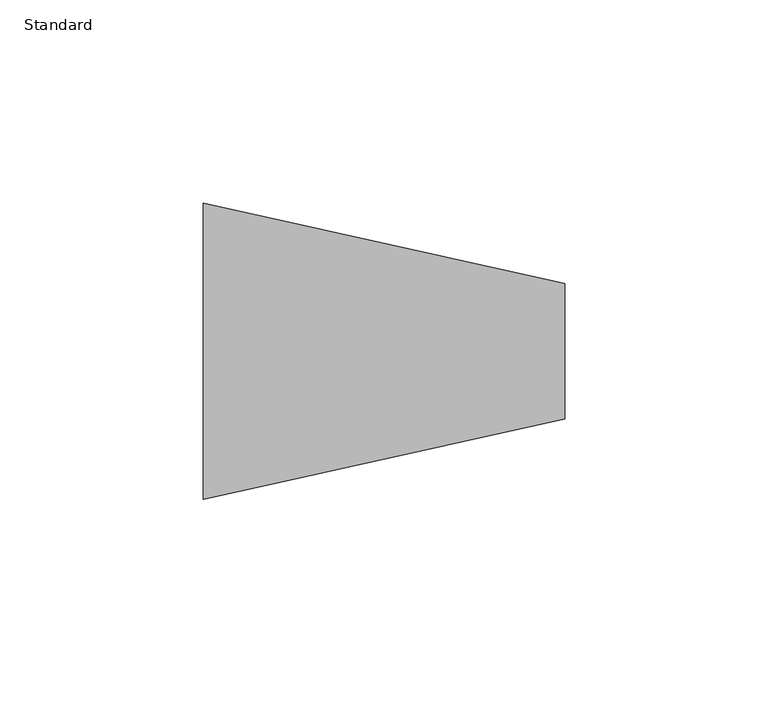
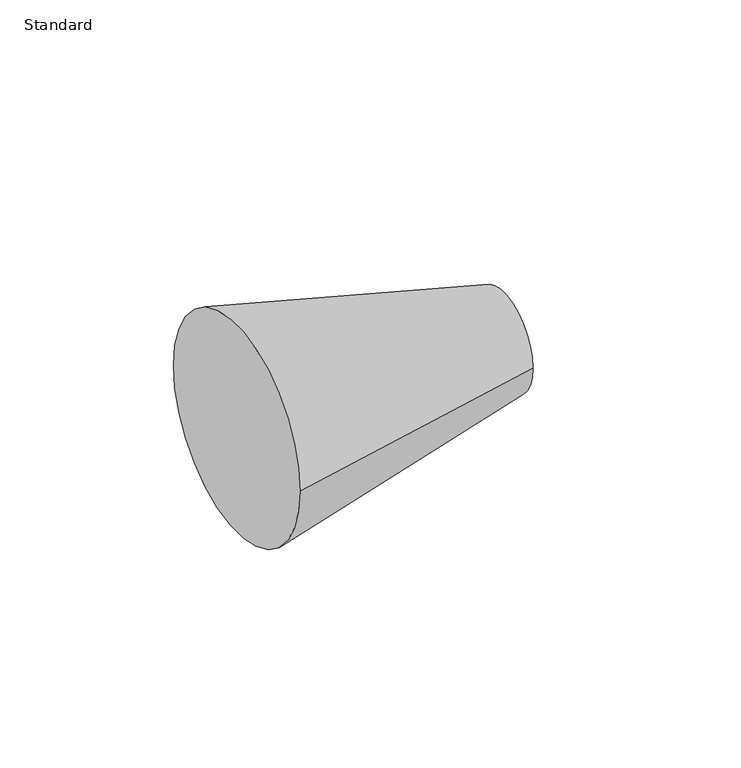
"""IFC4 building model written with IfcOpenShell, lengths in millimetres: pipe fitting geometry, Transformation - Générique : Standard."""

import ifcopenshell
import ifcopenshell.guid

model = None  # the IFC model being written
_history = None  # IfcOwnerHistory: only IFC2X3 demands one
_inside = {}  # id of a spatial element -> (the spatial element, [elements in it])
_under = {}  # id of a project, library or spatial element -> (it, [spatial elements below it])
_declared = {}  # id of a project -> (the project, [libraries it declares])
_typed = {}  # id of a type object -> (the type object, [elements of that type])
_made_of = {}  # id of a material, layer set ... -> (it, [elements and type objects made of it])


def new_model(schema):
    """Start an empty IFC model of exactly this schema.

    Asked for "IFC4X3", IfcOpenShell would pick the latest addendum, in which some entities
    have other attributes; the version numbers below select the first issue.
    IFC2X3 requires an IfcOwnerHistory on every rooted entity: one is made here for all.
    """
    global model, _history
    if schema == "IFC4X3":
        model = ifcopenshell.file(schema_version=(4, 3, 0, 0))
    else:
        model = ifcopenshell.file(schema=schema)
    _inside.clear()
    _under.clear()
    _declared.clear()
    _typed.clear()
    _made_of.clear()
    _history = None
    if model.schema == "IFC2X3":
        org = make("IfcOrganization", Name="unknown")
        user = make(
            "IfcPersonAndOrganization",
            ThePerson=make("IfcPerson", FamilyName="unknown"),
            TheOrganization=org,
        )
        app = make(
            "IfcApplication",
            ApplicationDeveloper=org,
            Version="unknown",
            ApplicationFullName="unknown",
            ApplicationIdentifier="unknown",
        )
        _history = make(
            "IfcOwnerHistory",
            OwningUser=user,
            OwningApplication=app,
            ChangeAction="ADDED",
            CreationDate=0,
        )
    return model


def make(cls, **values):
    """One entity of the class cls with the attributes given. An attribute that is None is left unset."""
    return model.create_entity(
        cls, **{name: value for name, value in values.items() if value is not None}
    )


def rooted(cls, **values):
    """An entity with a GlobalId (a new one), such as an element, a storey or a relation."""
    return make(cls, GlobalId=ifcopenshell.guid.new(), OwnerHistory=_history, **values)


def si_unit(unit_type, name, prefix=None):
    """IfcSIUnit, for example si_unit("LENGTHUNIT", "METRE", prefix="MILLI")."""
    return make("IfcSIUnit", UnitType=unit_type, Prefix=prefix, Name=name)


def assignment(units):
    """IfcUnitAssignment: the units of a project."""
    return None if units is None else make("IfcUnitAssignment", Units=units)


def point(xyz):
    """IfcCartesianPoint."""
    return None if xyz is None else make("IfcCartesianPoint", Coordinates=xyz)


def direction(xyz):
    """IfcDirection."""
    return None if xyz is None else make("IfcDirection", DirectionRatios=xyz)


def frame(location, z_axis=None, x_axis=None):
    """IfcAxis2Placement3D, a coordinate frame: its origin and axes. An axis left out is left unset."""
    return make(
        "IfcAxis2Placement3D",
        Location=point(location),
        Axis=direction(z_axis),
        RefDirection=direction(x_axis),
    )


def origin():
    """The frame at (0, 0, 0) with its axes left unset."""
    return frame((0.0, 0.0, 0.0))


def place(relative_to, where):
    """IfcLocalPlacement: puts the frame where relative to a parent placement (None: the world)."""
    return make(
        "IfcLocalPlacement", PlacementRelTo=relative_to, RelativePlacement=where
    )


def context(
    kind, dimensions, precision=None, world=None, true_north=None, identifier=None
):
    """IfcGeometricRepresentationContext, for example the 3D "Model" context."""
    return make(
        "IfcGeometricRepresentationContext",
        ContextIdentifier=identifier,
        ContextType=kind,
        CoordinateSpaceDimension=dimensions,
        Precision=precision,
        WorldCoordinateSystem=world,
        TrueNorth=true_north,
    )


def project(units=None, contexts=None):
    """IfcProject with its units and contexts."""
    return rooted(
        "IfcProject",
        Name="project",
        RepresentationContexts=contexts,
        UnitsInContext=assignment(units),
    )


def spatial(cls, under=None, at=None, **own):
    """A site, building, storey or space (cls), placed at a placement, below another one or the project."""
    s = rooted(cls, ObjectPlacement=at, **own)
    if under is not None:
        _under.setdefault(under.id(), (under, []))[1].append(s)
    return s


def polyline(points):
    """IfcPolyline through the points."""
    return make("IfcPolyline", Points=[point(p) for p in points])


def circle_curve(where, radius):
    """IfcCircle in the frame where."""
    return make("IfcCircle", Position=where, Radius=radius)


def shape(context_of_items, identifier, shape_type, items):
    """IfcShapeRepresentation: the items that make up one representation, for example the "Body"."""
    return make(
        "IfcShapeRepresentation",
        ContextOfItems=context_of_items,
        RepresentationIdentifier=identifier,
        RepresentationType=shape_type,
        Items=items,
    )


def source(mapping_origin, context_of_items, identifier, shape_type, items):
    """IfcRepresentationMap: a shape defined once, which mapped items show again and again."""
    return make(
        "IfcRepresentationMap",
        MappingOrigin=mapping_origin,
        MappedRepresentation=shape(context_of_items, identifier, shape_type, items),
    )


def transform(
    local_origin,
    x_axis=None,
    y_axis=None,
    z_axis=None,
    scale=None,
    scale2=None,
    scale3=None,
    uniform=True,
):
    """IfcCartesianTransformationOperator3D, or its non-uniform kind. x_axis, y_axis, z_axis: its Axis1, 2, 3."""
    if uniform:
        return make(
            "IfcCartesianTransformationOperator3D",
            Axis1=direction(x_axis),
            Axis2=direction(y_axis),
            LocalOrigin=point(local_origin),
            Scale=scale,
            Axis3=direction(z_axis),
        )
    return make(
        "IfcCartesianTransformationOperator3DnonUniform",
        Axis1=direction(x_axis),
        Axis2=direction(y_axis),
        LocalOrigin=point(local_origin),
        Scale=scale,
        Axis3=direction(z_axis),
        Scale2=scale2,
        Scale3=scale3,
    )


def mapped(mapping_source, mapping_target):
    """IfcMappedItem: shows the shape of a source again, moved by a transform."""
    return make(
        "IfcMappedItem", MappingSource=mapping_source, MappingTarget=mapping_target
    )


def made_of(thing, what):
    """Note that an element or type object is made of a material, layer set ...; save() writes the relation."""
    if what is not None:
        _made_of.setdefault(what.id(), (what, []))[1].append(thing)
    return thing


def element(
    cls,
    number,
    at=None,
    inside=None,
    cuts=None,
    type_object=None,
    material=None,
    context=None,
    identifier="Body",
    shape_type=None,
    held_by="IfcProductDefinitionShape",
    body=None,
    shapes=None,
    **own,
):
    """One element of the class cls, such as IfcWall. Its Tag is "e" and its number.

    at: its placement. inside: the storey or other place that contains it. cuts: it is an
    opening in that element (IfcRelVoidsElement). A single representation is given by context,
    identifier, shape_type and body (its items); several are given by shapes. held_by: the class
    of the entity that holds the representations. save() writes the other relations.
    """
    e = rooted(cls, Tag="e%d" % number, ObjectPlacement=at, **own)
    if body is not None:
        shapes = [shape(context, identifier, shape_type, body)]
    if shapes is not None:
        e.Representation = make(held_by, Representations=shapes)
    if inside is not None:
        _inside.setdefault(inside.id(), (inside, []))[1].append(e)
    if cuts is not None:
        rooted(
            "IfcRelVoidsElement", RelatingBuildingElement=cuts, RelatedOpeningElement=e
        )
    if type_object is not None:
        _typed.setdefault(type_object.id(), (type_object, []))[1].append(e)
    return made_of(e, material)


def aggregate(whole, parts):
    """IfcRelAggregates: a whole, such as a stair, and the parts it consists of."""
    return rooted("IfcRelAggregates", RelatingObject=whole, RelatedObjects=parts)


def save(model, path):
    """Write the relations noted so far, then the file.

    IfcRelAggregates (storeys below a building ...), IfcRelContainedInSpatialStructure (elements
    in a storey), IfcRelDefinesByType, IfcRelAssociatesMaterial and IfcRelDeclares: one each for
    every whole, place, type object, material and project.
    """
    for whole, parts in _under.values():
        aggregate(whole, parts)
    for where, things in _inside.values():
        rooted(
            "IfcRelContainedInSpatialStructure",
            RelatedElements=things,
            RelatingStructure=where,
        )
    for kind, things in _typed.values():
        rooted("IfcRelDefinesByType", RelatedObjects=things, RelatingType=kind)
    for what, things in _made_of.values():
        rooted("IfcRelAssociatesMaterial", RelatedObjects=things, RelatingMaterial=what)
    for by, libraries in _declared.values():
        rooted("IfcRelDeclares", RelatingContext=by, RelatedDefinitions=libraries)
    model.write(path)


def plane_surface(at):
    """IfcPlane: the flat surface through the origin of the frame at, square to its z axis."""
    return make("IfcPlane", Position=at)


def revolved_surface(curve, axis_point, axis_direction):
    """IfcSurfaceOfRevolution: the curve turned about the line through axis_point along axis_direction."""
    return make(
        "IfcSurfaceOfRevolution",
        SweptCurve=make("IfcArbitraryOpenProfileDef", ProfileType="CURVE", Curve=curve),
        AxisPosition=make("IfcAxis1Placement", Location=point(axis_point), Axis=direction(axis_direction)),
    )


def advanced_brep(points, edges, surfaces, faces):
    """IfcAdvancedBrep: a solid bounded by faces that lie on surfaces and meet in shared edges.

    An edge is (start, end): straight between two places in points (the first is 0);
    or (start, end, curve); or (start, end, curve, False) where it runs against its curve.
    A face is (place in surfaces, loops), or (place, loops, False) where it looks against
    its surface's normal. A loop lists edges by number (the first is 1), with a minus sign
    where the edge is run from its end to its start. The first loop is the outer one.
    """
    corners = [point(p) for p in points]
    vertices = [make("IfcVertexPoint", VertexGeometry=c) for c in corners]
    made = []
    for start, end, *more in edges:
        made.append(
            make(
                "IfcEdgeCurve",
                EdgeStart=vertices[start],
                EdgeEnd=vertices[end],
                EdgeGeometry=more[0] if more else make("IfcPolyline", Points=[corners[start], corners[end]]),
                SameSense=more[1] if len(more) > 1 else True,
            )
        )
    hull = []
    for where, loops, *sense in faces:
        bounds = []
        for j, loop in enumerate(loops):
            ring = [make("IfcOrientedEdge", EdgeElement=made[abs(k) - 1], Orientation=k > 0) for k in loop]
            bounds.append(
                make(
                    "IfcFaceOuterBound" if j == 0 else "IfcFaceBound",
                    Bound=make("IfcEdgeLoop", EdgeList=ring),
                    Orientation=True,
                )
            )
        hull.append(make("IfcAdvancedFace", Bounds=bounds, FaceSurface=surfaces[where], SameSense=sense[0] if sense else True))
    return make("IfcAdvancedBrep", Outer=make("IfcClosedShell", CfsFaces=hull))


def standard_d0810794(model_context):
    return source(origin(), model_context, "Body", "AdvancedBrep", [
        advanced_brep(
        [(89.0, -16.7, 0.0), (89.0, 16.7, 0.0), (0.0, -36.5, 0.0), (0.0, 36.5, 0.0)],
        [
            (0, 1, circle_curve(frame((89.0, 0.0, 0.0), z_axis=(1.0, 0.0, 0.0), x_axis=(0.0, -1.0, 0.0)), 16.7)),
            (1, 0, circle_curve(frame((89.0, 0.0, 0.0), z_axis=(1.0, 0.0, 0.0), x_axis=(0.0, 1.0, 0.0)), 16.7)),
            (2, 3, circle_curve(frame((0.0, 0.0, 0.0), z_axis=(-1.0, 0.0, 0.0), x_axis=(0.0, 1.0, 0.0)), 36.5)),
            (3, 2, circle_curve(frame((0.0, 0.0, 0.0), z_axis=(-1.0, 0.0, 0.0), x_axis=(0.0, -1.0, 0.0)), 36.5)),
            (3, 1),
            (0, 2),
        ],
        [
            plane_surface(frame((89.0, 0.0, 0.0), z_axis=(1.0, 0.0, 0.0), x_axis=(0.0, 0.0, -1.0))),
            plane_surface(frame((0.0, 0.0, 0.0), z_axis=(-1.0, 0.0, 0.0), x_axis=(0.0, 0.0, -1.0))),
            revolved_surface(polyline([(89.0, -16.700000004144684, 0.0), (0.0, -36.5, 0.0)]), (164.0656566, 0.0, 0.0), (-1.0, 0.0, 0.0)),
            revolved_surface(polyline([(89.0, 16.700000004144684, 0.0), (0.0, 36.5, 0.0)]), (164.0656566, 0.0, 0.0), (-1.0, 0.0, 0.0)),
        ],
        [
            (0, [[1, 2]]),
            (1, [[3, 4]]),
            (2, [[-4, 5, -1, 6]]),
            (3, [[-3, -6, -2, -5]]),
        ],
    ),
    ])


if __name__ == "__main__":
    model = new_model("IFC4")
    model_context = context("Model", 3, world=origin())
    ifc_project = project(units=[si_unit("LENGTHUNIT", "METRE", prefix="MILLI")], contexts=[model_context])
    site = spatial("IfcSite", under=ifc_project)
    building = spatial("IfcBuilding", under=site)
    placement = place(None, origin())
    standard_shape = standard_d0810794(model_context)
    element("IfcPipeFitting", 1, ObjectType="Transformation - Générique : Standard", at=placement, inside=building, context=model_context, shape_type="MappedRepresentation", body=[
        mapped(standard_shape, transform((0.0, 0.0, 0.0), x_axis=(1.0, 0.0, 0.0), y_axis=(0.0, 1.0, 0.0), z_axis=(0.0, 0.0, 1.0))),
    ])
    save(model, "model.ifc")
